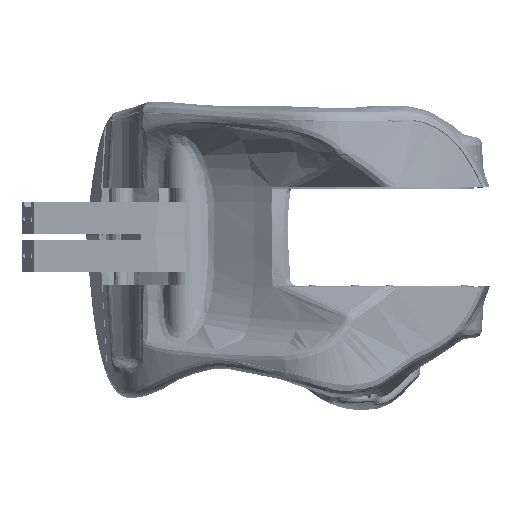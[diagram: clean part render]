
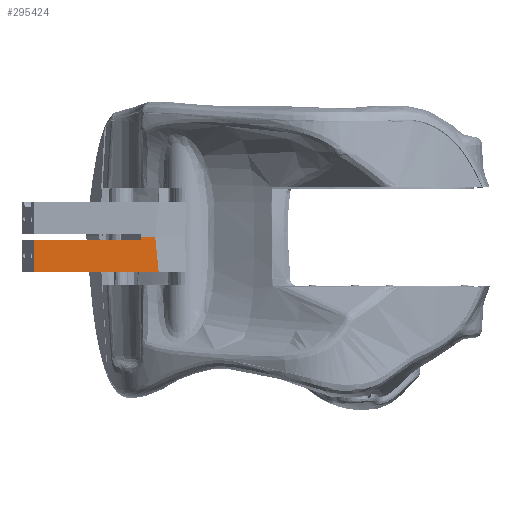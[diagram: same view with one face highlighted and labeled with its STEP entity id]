
A CAD part, left-side view. The second image highlights one B-rep face of the part: STEP entity #295424.
In plain terms, the highlighted planar face has unit normal (-0.999, -0.035, 0).
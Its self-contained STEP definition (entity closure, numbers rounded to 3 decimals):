
#2916 = VECTOR ( 'NONE', #208249, 1000. ) ;
#15229 = ORIENTED_EDGE ( 'NONE', *, *, #31677, .T. ) ;
#26157 = CARTESIAN_POINT ( 'NONE',  ( -7.065, -15.755, -5.265 ) ) ;
#31677 = EDGE_CURVE ( 'NONE', #373261, #405931, #460207, .T. ) ;
#33565 = CARTESIAN_POINT ( 'NONE',  ( -7.255, -10.312, 5.235 ) ) ;
#58287 = CARTESIAN_POINT ( 'NONE',  ( -7.266, -9.999, -90.999 ) ) ;
#74641 = CARTESIAN_POINT ( 'NONE',  ( -7.065, -15.755, -5.265 ) ) ;
#81622 = DIRECTION ( 'NONE',  ( 0., 0., -1. ) ) ;
#88232 = CARTESIAN_POINT ( 'NONE',  ( -7.255, -10.312, 4.235 ) ) ;
#92707 = EDGE_LOOP ( 'NONE', ( #195732, #300921, #406336, #339818, #164774, #15229 ) ) ;
#95593 = DIRECTION ( 'NONE',  ( 0.035, -0.999, 0. ) ) ;
#164774 = ORIENTED_EDGE ( 'NONE', *, *, #414392, .T. ) ;
#171584 = CARTESIAN_POINT ( 'NONE',  ( -7.266, -9.999, -5.265 ) ) ;
#177536 = VECTOR ( 'NONE', #181962, 1000. ) ;
#180107 = VERTEX_POINT ( 'NONE', #257250 ) ;
#181962 = DIRECTION ( 'NONE',  ( -0.003, 0.1, 0.995 ) ) ;
#195732 = ORIENTED_EDGE ( 'NONE', *, *, #328880, .T. ) ;
#198112 = CARTESIAN_POINT ( 'NONE',  ( -8.371, 21.654, -90.999 ) ) ;
#198376 = CARTESIAN_POINT ( 'NONE',  ( -7.102, -14.7, 5.235 ) ) ;
#200623 = DIRECTION ( 'NONE',  ( -0.999, -0.035, 0. ) ) ;
#208249 = DIRECTION ( 'NONE',  ( -0.035, 0.999, 0. ) ) ;
#210573 = CARTESIAN_POINT ( 'NONE',  ( -7.102, -14.7, 5.235 ) ) ;
#230738 = DIRECTION ( 'NONE',  ( -0.035, 0.999, 0. ) ) ;
#244039 = DIRECTION ( 'NONE',  ( 0., 0., -1. ) ) ;
#248152 = VECTOR ( 'NONE', #318524, 1000. ) ;
#249650 = LINE ( 'NONE', #74641, #177536 ) ;
#257250 = CARTESIAN_POINT ( 'NONE',  ( -8.371, 21.654, 4.235 ) ) ;
#272602 = LINE ( 'NONE', #375362, #392044 ) ;
#274240 = VERTEX_POINT ( 'NONE', #26157 ) ;
#278228 = VECTOR ( 'NONE', #81622, 1000. ) ;
#295424 = ADVANCED_FACE ( 'NONE', ( #415203 ), #447956, .T. ) ;
#300921 = ORIENTED_EDGE ( 'NONE', *, *, #380976, .T. ) ;
#305470 = AXIS2_PLACEMENT_3D ( 'NONE', #58287, #200623, #95593 ) ;
#307899 = EDGE_CURVE ( 'NONE', #351698, #274240, #460849, .T. ) ;
#318524 = DIRECTION ( 'NONE',  ( 0.035, -0.999, 0. ) ) ;
#320329 = EDGE_CURVE ( 'NONE', #180107, #351698, #443153, .T. ) ;
#328880 = EDGE_CURVE ( 'NONE', #405931, #421312, #436261, .T. ) ;
#328919 = VECTOR ( 'NONE', #244039, 1000. ) ;
#339818 = ORIENTED_EDGE ( 'NONE', *, *, #307899, .T. ) ;
#351698 = VERTEX_POINT ( 'NONE', #421667 ) ;
#373261 = VERTEX_POINT ( 'NONE', #198376 ) ;
#375362 = CARTESIAN_POINT ( 'NONE',  ( -7.266, -9.999, 4.235 ) ) ;
#380976 = EDGE_CURVE ( 'NONE', #421312, #180107, #272602, .T. ) ;
#392044 = VECTOR ( 'NONE', #230738, 1000. ) ;
#405864 = CARTESIAN_POINT ( 'NONE',  ( -7.255, -10.312, 4.235 ) ) ;
#405931 = VERTEX_POINT ( 'NONE', #33565 ) ;
#406336 = ORIENTED_EDGE ( 'NONE', *, *, #320329, .T. ) ;
#414392 = EDGE_CURVE ( 'NONE', #274240, #373261, #249650, .T. ) ;
#415203 = FACE_OUTER_BOUND ( 'NONE', #92707, .T. ) ;
#421312 = VERTEX_POINT ( 'NONE', #88232 ) ;
#421667 = CARTESIAN_POINT ( 'NONE',  ( -8.371, 21.654, -5.265 ) ) ;
#436261 = LINE ( 'NONE', #405864, #278228 ) ;
#443153 = LINE ( 'NONE', #198112, #328919 ) ;
#447956 = PLANE ( 'NONE',  #305470 ) ;
#460207 = LINE ( 'NONE', #210573, #2916 ) ;
#460849 = LINE ( 'NONE', #171584, #248152 ) ;
